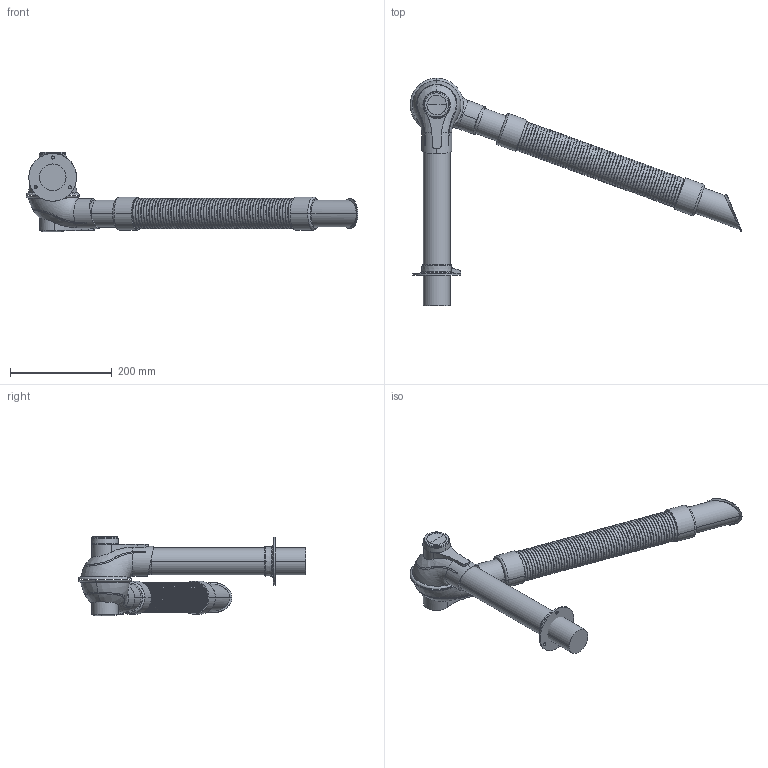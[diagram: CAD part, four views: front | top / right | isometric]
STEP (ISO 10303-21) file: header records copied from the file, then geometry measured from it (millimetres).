
FILE_DESCRIPTION((''),'2;1');
FILE_NAME('102370','2015-09-30T',('Tomas Bellgran'),(''),'PRO/ENGINEER BY PARAMETRIC TECHNOLOGY CORPORATION, 2013410','PRO/ENGINEER BY PARAMETRIC TECHNOLOGY CORPORATION, 2013410','');
FILE_SCHEMA(('AUTOMOTIVE_DESIGN { 1 0 10303 214 1 1 1 1 }'));
Length unit declared in the file: millimetre
Products named in the file (12): 102162; 100441_AF2; 102201; 105-5481; 101156; 123053; 102197_AF3; 102197-REF_AF3; 117212; 110914; 117211; 102370
Assembly tree (13 placements, depth 4):
  102370
    102162
    100441_AF2
    123053
      102201  x2
      101156
        105-5481
    117211
      102197_AF3
      102197-REF_AF3
      117212
      110914  x2
Bounding box: 652.8 x 447.4 x 156.9 mm (x, y, z)
Volume: 2514665.4 mm3; surface area: 469565.8 mm2
Topology: 11 solids, 11 shells, 387 faces, 877 edges, 512 vertices
Faces by surface type: bspline 218, plane 62, cylinder 55, torus 23, sphere 15, cone 14
Entity records: 100101 total; most frequent: CARTESIAN_POINT 86602, ORIENTED_EDGE 1438, PRESENTATION_STYLE_ASSIGNMENT 1011, STYLED_ITEM 1011, DIRECTION 841, CURVE_STYLE 719, EDGE_CURVE 719, PROPERTY_DEFINITION 547
